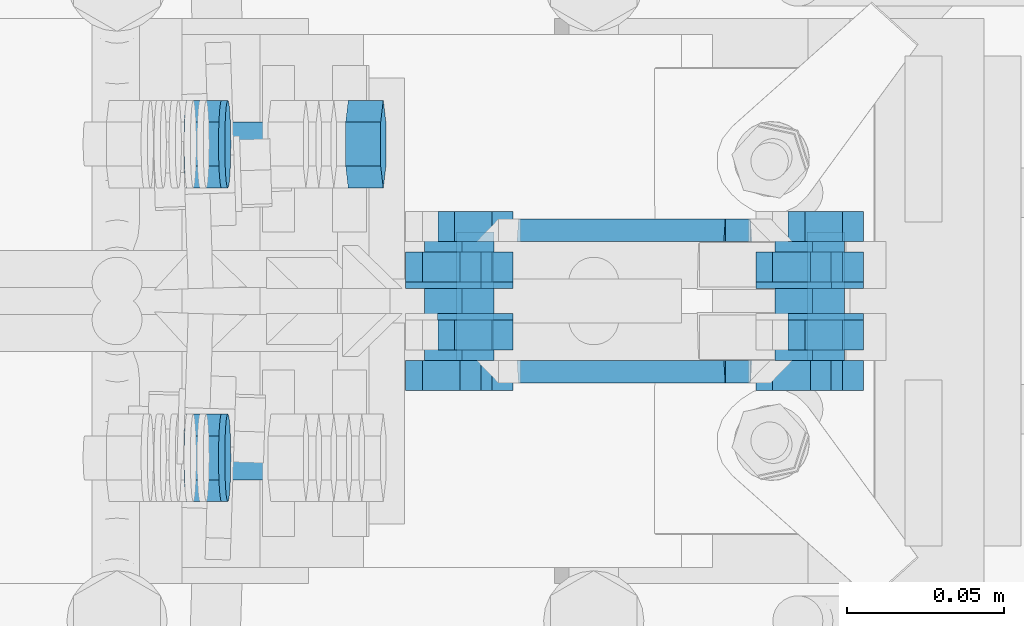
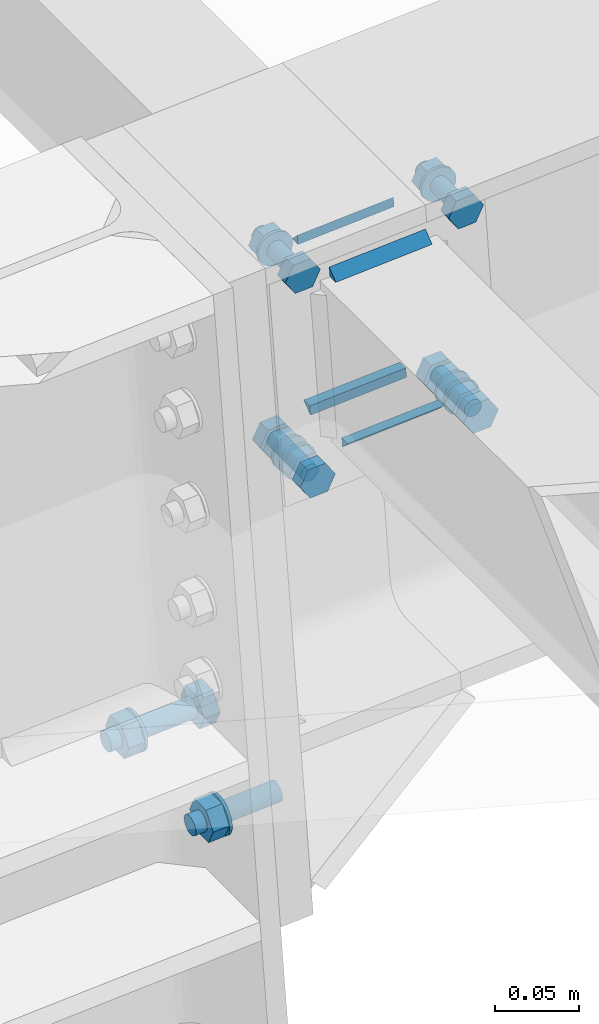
# One storey, part 37 of 72: 31 mechanical fasteners, 8 fasteners.
"""IFC4 building model written with IfcOpenShell, lengths in metres."""

from ifc_helpers import new_model, si_unit, frame, origin_with_axes, place, context, project, spatial, polyline, outline, extrude, type_object, element, save


model = new_model("IFC4")

# Units and contexts
model_context = context("Model", 3, precision=1e-05, world=origin_with_axes())
ifc_project = project(units=[si_unit("LENGTHUNIT", "METRE"), si_unit("AREAUNIT", "SQUARE_METRE"), si_unit("VOLUMEUNIT", "CUBIC_METRE"), si_unit("MASSUNIT", "GRAM", prefix="KILO"), si_unit("TIMEUNIT", "SECOND"), si_unit("PLANEANGLEUNIT", "RADIAN"), si_unit("SOLIDANGLEUNIT", "STERADIAN"), si_unit("THERMODYNAMICTEMPERATUREUNIT", "DEGREE_CELSIUS")], contexts=[model_context])

# Site, building, storey
placement_1 = place(None, origin_with_axes())
site = spatial("IfcSite", under=ifc_project, at=placement_1, Name="Italia", CompositionType="ELEMENT")
building = spatial("IfcBuilding", under=site, at=placement_1, Name="Pensilina", CompositionType="ELEMENT")
storey = spatial("IfcBuildingStorey", under=building, at=placement_1, Name="Storey 0", CompositionType="ELEMENT", Elevation=0.0)

# Mechanical fasteners
mechanical_fastener_type_1 = type_object("IfcMechanicalFastenerType", Name="Collegamento 0102_0202", PredefinedType="BOLT")
placement_2 = place(placement_1, origin_with_axes())
mechanical_fastener_1_placement = place(placement_2, origin_with_axes())
element("IfcMechanicalFastener", 1, at=mechanical_fastener_1_placement, inside=storey, type_object=mechanical_fastener_type_1, Name="Collegamento 0102_0202", NominalDiameter=0.014, context=model_context, shape_type="SweptSolid", body=[
    extrude(outline(polyline([(0.0, 0.0, 0.0), (-0.000238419, -0.0018115, 0.0), (-0.000937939, -0.00349998, 0.0), (-0.0020504, -0.00494957, 0.0), (-0.00349998, -0.00606203, 0.0), (-0.00518847, -0.00676131, 0.0), (-0.00699997, -0.00699997, 0.0), (-0.00881147, -0.00676131, 0.0), (-0.0105, -0.00606203, 0.0), (-0.0119495, -0.00494957, 0.0), (-0.013062, -0.00349998, 0.0), (-0.0137615, -0.0018115, 0.0), (-0.0139999, 0.0, 0.0), (-0.0137615, 0.00181174, 0.0), (-0.013062, 0.00350022, 0.0), (-0.0119495, 0.00494981, 0.0), (-0.0105, 0.00606227, 0.0), (-0.00881147, 0.00676155, 0.0), (-0.00699997, 0.00699997, 0.0), (-0.00518847, 0.00676155, 0.0), (-0.00349998, 0.00606227, 0.0), (-0.0020504, 0.00494981, 0.0), (-0.000937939, 0.00350022, 0.0), (-0.000238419, 0.00181174, 0.0), (0.0, 0.0, 0.0)])), frame((0.870405, 5.237, 3.41559), z_axis=(0.997648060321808, 0.0, 0.068544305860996), x_axis=(0.0, 1.0, 0.0)), (0.0, 0.0, 1.0), 0.0595),
])
mechanical_fastener_type_2 = type_object("IfcMechanicalFastenerType", Name="Collegamento 0102_0202", PredefinedType="BOLT")
mechanical_fastener_2_placement = place(placement_2, origin_with_axes())
element("IfcMechanicalFastener", 2, at=mechanical_fastener_2_placement, inside=storey, type_object=mechanical_fastener_type_2, Name="Collegamento 0102_0202", NominalDiameter=0.0139999, context=model_context, shape_type="SweptSolid", body=[
    extrude(outline(polyline([(0.0, 0.0, 0.0), (-0.0139999, 0.0, 0.0), (-0.0209999, 0.0121243, 0.0), (-0.0139999, 0.0242488, 0.0), (0.0, 0.0242488, 0.0), (0.00700045, 0.0121243, 0.0), (0.0, 0.0, 0.0)])), frame((0.879017, 5.237, 3.40403), z_axis=(0.997648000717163, 0.0, 0.068545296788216), x_axis=(0.0, 1.0, 0.0)), (0.0, 0.0, 1.0), 0.0112),
])
mechanical_fastener_type_3 = type_object("IfcMechanicalFastenerType", Name="Collegamento 0102_0202", PredefinedType="BOLT")
mechanical_fastener_3_placement = place(placement_2, origin_with_axes())
element("IfcMechanicalFastener", 3, at=mechanical_fastener_3_placement, inside=storey, type_object=mechanical_fastener_type_3, Name="Collegamento 0102_0202", NominalDiameter=0.028, context=model_context, shape_type="SweptSolid", body=[
    extrude(outline(polyline([(0.0, 0.0, 0.0), (-0.000476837, -0.00362349, 0.0), (-0.0018754, -0.00699997, 0.0), (-0.00410032, -0.00989962, 0.0), (-0.00699997, -0.0121245, 0.0), (-0.0103765, -0.0135231, 0.0), (-0.0139999, -0.0139999, 0.0), (-0.0176234, -0.0135231, 0.0), (-0.0209999, -0.0121245, 0.0), (-0.0238996, -0.00989962, 0.0), (-0.0261245, -0.00699997, 0.0), (-0.027523, -0.00362349, 0.0), (-0.0279999, 0.0, 0.0), (-0.027523, 0.00362349, 0.0), (-0.0261245, 0.00699997, 0.0), (-0.0238996, 0.00989962, 0.0), (-0.0209999, 0.0121243, 0.0), (-0.0176234, 0.0135229, 0.0), (-0.0139999, 0.0139999, 0.0), (-0.0103765, 0.0135229, 0.0), (-0.00699997, 0.0121243, 0.0), (-0.00410032, 0.00989962, 0.0), (-0.0018754, 0.00699997, 0.0), (-0.000476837, 0.00362349, 0.0), (0.0, 0.0, 0.0)])), frame((0.88936, 5.244, 3.41689), z_axis=(0.997648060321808, 0.0, 0.06854435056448), x_axis=(0.0, 1.0, 0.0)), (0.0, 0.0, 1.0), 0.00200003),
])
mechanical_fastener_type_4 = type_object("IfcMechanicalFastenerType", Name="Collegamento 0102_0202", PredefinedType="BOLT")
mechanical_fastener_4_placement = place(placement_2, origin_with_axes())
element("IfcMechanicalFastener", 4, at=mechanical_fastener_4_placement, inside=storey, type_object=mechanical_fastener_type_4, Name="Collegamento 0102_0202", NominalDiameter=0.0139999, context=model_context, shape_type="SweptSolid", body=[
    extrude(outline(polyline([(0.0, 0.0, 0.0), (-0.0139999, 0.0, 0.0), (-0.0210004, 0.0121245, 0.0), (-0.0139999, 0.0242486, 0.0), (0.0, 0.0242486, 0.0), (0.00699997, 0.0121245, 0.0), (0.0, 0.0, 0.0)])), frame((0.930596, 5.337, 3.40757), z_axis=(0.997648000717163, 0.0, 0.068545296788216), x_axis=(0.0, 1.0, 0.0)), (0.0, 0.0, 1.0), 0.0112),
])
mechanical_fastener_type_5 = type_object("IfcMechanicalFastenerType", Name="Collegamento 0102_0202", PredefinedType="BOLT")
mechanical_fastener_5_placement = place(placement_2, origin_with_axes())
element("IfcMechanicalFastener", 5, at=mechanical_fastener_5_placement, inside=storey, type_object=mechanical_fastener_type_5, Name="Collegamento 0102_0202", NominalDiameter=0.014, context=model_context, shape_type="SweptSolid", body=[
    extrude(outline(polyline([(0.0, 0.0, 0.0), (-0.000238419, -0.0018115, 0.0), (-0.000937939, -0.00349998, 0.0), (-0.0020504, -0.00494957, 0.0), (-0.00349998, -0.00606203, 0.0), (-0.00518847, -0.00676131, 0.0), (-0.00699997, -0.00699997, 0.0), (-0.00881147, -0.00676131, 0.0), (-0.0105, -0.00606203, 0.0), (-0.0119495, -0.00494957, 0.0), (-0.013062, -0.00349998, 0.0), (-0.0137615, -0.0018115, 0.0), (-0.0139999, 0.0, 0.0), (-0.0137615, 0.00181174, 0.0), (-0.013062, 0.00350022, 0.0), (-0.0119495, 0.00494981, 0.0), (-0.0105, 0.00606227, 0.0), (-0.00881147, 0.00676155, 0.0), (-0.00699997, 0.00699997, 0.0), (-0.00518847, 0.00676155, 0.0), (-0.00349998, 0.00606227, 0.0), (-0.0020504, 0.00494981, 0.0), (-0.000937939, 0.00350022, 0.0), (-0.000238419, 0.00181174, 0.0), (0.0, 0.0, 0.0)])), frame((0.870405, 5.337, 3.41559), z_axis=(0.997648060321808, 0.0, 0.068544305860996), x_axis=(0.0, 1.0, 0.0)), (0.0, 0.0, 1.0), 0.0595),
])
mechanical_fastener_type_6 = type_object("IfcMechanicalFastenerType", Name="Collegamento 0102_0202", PredefinedType="BOLT")
mechanical_fastener_6_placement = place(placement_2, origin_with_axes())
element("IfcMechanicalFastener", 6, at=mechanical_fastener_6_placement, inside=storey, type_object=mechanical_fastener_type_6, Name="Collegamento 0102_0202", NominalDiameter=0.0139999, context=model_context, shape_type="SweptSolid", body=[
    extrude(outline(polyline([(0.0, 0.0, 0.0), (-0.0139999, 0.0, 0.0), (-0.0210004, 0.0121243, 0.0), (-0.0139999, 0.0242488, 0.0), (0.0, 0.0242488, 0.0), (0.00699997, 0.0121243, 0.0), (0.0, 0.0, 0.0)])), frame((0.879017, 5.337, 3.40403), z_axis=(0.997648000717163, 0.0, 0.068545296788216), x_axis=(0.0, 1.0, 0.0)), (0.0, 0.0, 1.0), 0.0112),
])
mechanical_fastener_type_7 = type_object("IfcMechanicalFastenerType", Name="Collegamento 0102_0202", PredefinedType="BOLT")
mechanical_fastener_7_placement = place(placement_2, origin_with_axes())
element("IfcMechanicalFastener", 7, at=mechanical_fastener_7_placement, inside=storey, type_object=mechanical_fastener_type_7, Name="Collegamento 0102_0202", NominalDiameter=0.028, context=model_context, shape_type="SweptSolid", body=[
    extrude(outline(polyline([(0.0, 0.0, 0.0), (-0.000476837, -0.00362349, 0.0), (-0.0018754, -0.00699997, 0.0), (-0.00410032, -0.00989962, 0.0), (-0.00699997, -0.0121245, 0.0), (-0.0103765, -0.0135231, 0.0), (-0.0139999, -0.0139999, 0.0), (-0.0176234, -0.0135231, 0.0), (-0.0209999, -0.0121245, 0.0), (-0.0238996, -0.00989962, 0.0), (-0.0261245, -0.00699997, 0.0), (-0.027523, -0.00362349, 0.0), (-0.0279999, 0.0, 0.0), (-0.027523, 0.00362349, 0.0), (-0.0261245, 0.00699997, 0.0), (-0.0238996, 0.00989962, 0.0), (-0.0209999, 0.0121243, 0.0), (-0.0176234, 0.0135229, 0.0), (-0.0139999, 0.0139999, 0.0), (-0.0103765, 0.0135229, 0.0), (-0.00699997, 0.0121243, 0.0), (-0.00410032, 0.00989962, 0.0), (-0.0018754, 0.00699997, 0.0), (-0.000476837, 0.00362349, 0.0), (0.0, 0.0, 0.0)])), frame((0.88936, 5.344, 3.41689), z_axis=(0.997648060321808, 0.0, 0.06854435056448), x_axis=(0.0, 1.0, 0.0)), (0.0, 0.0, 1.0), 0.00200003),
])

# Fasteners
fastener_type_1 = type_object("IfcFastenerType", Name="Collegamento 0202_0201", PredefinedType="WELD")
fastener_1_placement = place(placement_2, origin_with_axes())
element("IfcFastener", 8, at=fastener_1_placement, inside=storey, type_object=fastener_type_1, Name="Collegamento 0202_0201", context=model_context, shape_type="SweptSolid", body=[
    extrude(outline(polyline([(0.0, 0.0, 0.0), (0.00717354, -0.00695801, 0.0), (0.0, -0.00695801, 0.0), (0.0, 0.0, 0.0)])), frame((1.04952, 5.26105, 3.76556), z_axis=(-0.997731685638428, 0.0, -0.067316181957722), x_axis=(0.0, -1.0, 0.0)), (0.0, 0.0, 1.0), 0.0661001),
])
fastener_type_2 = type_object("IfcFastenerType", Name="Collegamento 0202_0201", PredefinedType="WELD")
fastener_2_placement = place(placement_2, origin_with_axes())
element("IfcFastener", 9, at=fastener_2_placement, inside=storey, type_object=fastener_type_2, Name="Collegamento 0202_0201", context=model_context, shape_type="SweptSolid", body=[
    extrude(outline(polyline([(0.0, 0.0, 0.0), (-0.00717354, 0.00695801, 0.0), (0.0, 0.00695801, 0.0), (0.0, 0.0, 0.0)])), frame((0.992578, 5.26105, 3.6276), z_axis=(0.997731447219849, 0.0, 0.067319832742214), x_axis=(0.0, 1.0, 0.0)), (0.0, 0.0, 1.0), 0.0661),
])
fastener_type_3 = type_object("IfcFastenerType", Name="Collegamento 0202_0201", PredefinedType="WELD")
fastener_3_placement = place(placement_2, origin_with_axes())
element("IfcFastener", 10, at=fastener_3_placement, inside=storey, type_object=fastener_type_3, Name="Collegamento 0202_0201", context=model_context, shape_type="SweptSolid", body=[
    extrude(outline(polyline([(0.0, 0.0, 0.0), (0.00717354, -0.00695801, 0.0), (0.0, -0.00695801, 0.0), (0.0, 0.0, 0.0)])), frame((1.04952, 5.26105, 3.76556), z_axis=(-0.997731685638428, 0.0, -0.067316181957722), x_axis=(0.0, -1.0, 0.0)), (0.0, 0.0, 1.0), 0.0661001),
])
fastener_type_4 = type_object("IfcFastenerType", Name="Collegamento 0202_0201", PredefinedType="WELD")
fastener_4_placement = place(placement_2, origin_with_axes())
element("IfcFastener", 11, at=fastener_4_placement, inside=storey, type_object=fastener_type_4, Name="Collegamento 0202_0201", context=model_context, shape_type="SweptSolid", body=[
    extrude(outline(polyline([(0.0, 0.0, 0.0), (-0.00717354, 0.00695801, 0.0), (0.0, 0.00695801, 0.0), (0.0, 0.0, 0.0)])), frame((0.992578, 5.26105, 3.6276), z_axis=(0.997731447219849, 0.0, 0.067319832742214), x_axis=(0.0, 1.0, 0.0)), (0.0, 0.0, 1.0), 0.0661),
])

# Mechanical fasteners
mechanical_fastener_type_8 = type_object("IfcMechanicalFastenerType", Name="Collegamento 0202_0201", PredefinedType="BOLT")
mechanical_fastener_8_placement = place(placement_2, origin_with_axes())
element("IfcMechanicalFastener", 12, at=mechanical_fastener_8_placement, inside=storey, type_object=mechanical_fastener_type_8, Name="Collegamento 0202_0201", NominalDiameter=0.0119999, context=model_context, shape_type="SweptSolid", body=[
    extrude(outline(polyline([(0.0, 0.0, 0.0), (-0.0119728, -0.000807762, 0.0), (-0.0186588, 0.00915694, 0.0), (-0.0133719, 0.0199296, 0.0), (-0.00139916, 0.0207374, 0.0), (0.00528681, 0.0107727, 0.0), (0.0, 0.0, 0.0)])), frame((0.976979, 5.261, 3.60702), z_axis=(0.0, -1.0, 0.0), x_axis=(1.0, 0.0, 0.0)), (0.0, 0.0, 1.0), 0.00960016),
])
mechanical_fastener_type_9 = type_object("IfcMechanicalFastenerType", Name="Collegamento 0202_0201", PredefinedType="BOLT")
mechanical_fastener_9_placement = place(placement_2, origin_with_axes())
element("IfcMechanicalFastener", 13, at=mechanical_fastener_9_placement, inside=storey, type_object=mechanical_fastener_type_9, Name="Collegamento 0202_0201", NominalDiameter=0.012, context=model_context, shape_type="SweptSolid", body=[
    extrude(outline(polyline([(0.0, 0.0, 0.0), (-0.000204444, -0.00155282, 0.0), (-0.000803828, -0.00300002, 0.0), (-0.00175732, -0.00424266, 0.0), (-0.00299996, -0.00519609, 0.0), (-0.00444704, -0.00579548, 0.0), (-0.00599998, -0.00600004, 0.0), (-0.00755292, -0.00579548, 0.0), (-0.009, -0.00519609, 0.0), (-0.0102426, -0.00424266, 0.0), (-0.0111961, -0.00300002, 0.0), (-0.0117955, -0.00155282, 0.0), (-0.012, 0.0, 0.0), (-0.0117955, 0.00155282, 0.0), (-0.0111961, 0.00300002, 0.0), (-0.0102426, 0.00424266, 0.0), (-0.009, 0.00519609, 0.0), (-0.00755292, 0.00579548, 0.0), (-0.00599998, 0.00600004, 0.0), (-0.00444704, 0.00579548, 0.0), (-0.00299996, 0.00519609, 0.0), (-0.00175732, 0.00424266, 0.0), (-0.000803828, 0.00300002, 0.0), (-0.000204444, 0.00155282, 0.0), (0.0, 0.0, 0.0)])), frame((0.976293, 5.302, 3.61698), z_axis=(0.0, -1.0, 0.0), x_axis=(1.0, 0.0, 0.0)), (0.0, 0.0, 1.0), 0.0409999),
])
mechanical_fastener_type_10 = type_object("IfcMechanicalFastenerType", Name="Collegamento 0202_0201", PredefinedType="BOLT")
mechanical_fastener_10_placement = place(placement_2, origin_with_axes())
element("IfcMechanicalFastener", 14, at=mechanical_fastener_10_placement, inside=storey, type_object=mechanical_fastener_type_10, Name="Collegamento 0202_0201", NominalDiameter=0.0119999, context=model_context, shape_type="SweptSolid", body=[
    extrude(outline(polyline([(0.0, 0.0, 0.0), (-0.0119728, -0.000807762, 0.0), (-0.0186588, 0.00915694, 0.0), (-0.0133719, 0.0199296, 0.0), (-0.00139916, 0.0207374, 0.0), (0.00528681, 0.0107727, 0.0), (0.0, 0.0, 0.0)])), frame((0.976979, 5.2956, 3.60702), z_axis=(0.0, -1.0, 0.0), x_axis=(1.0, 0.0, 0.0)), (0.0, 0.0, 1.0), 0.00959969),
])
mechanical_fastener_type_11 = type_object("IfcMechanicalFastenerType", Name="Collegamento 0202_0201", PredefinedType="BOLT")
mechanical_fastener_11_placement = place(placement_2, origin_with_axes())
element("IfcMechanicalFastener", 15, at=mechanical_fastener_11_placement, inside=storey, type_object=mechanical_fastener_type_11, Name="Collegamento 0202_0201", NominalDiameter=0.024, context=model_context, shape_type="SweptSolid", body=[
    extrude(outline(polyline([(0.0, 0.0, 0.0), (-0.000408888, -0.00310588, 0.0), (-0.00160772, -0.00600004, 0.0), (-0.00351477, -0.00848532, 0.0), (-0.00600004, -0.0103922, 0.0), (-0.00889421, -0.0115912, 0.0), (-0.012, -0.0120001, 0.0), (-0.0151058, -0.0115912, 0.0), (-0.018, -0.0103922, 0.0), (-0.0204853, -0.00848532, 0.0), (-0.0223923, -0.00600004, 0.0), (-0.0235912, -0.00310588, 0.0), (-0.024, 0.0, 0.0), (-0.0235912, 0.00310588, 0.0), (-0.0223923, 0.00600004, 0.0), (-0.0204853, 0.00848532, 0.0), (-0.018, 0.0103922, 0.0), (-0.0151058, 0.0115912, 0.0), (-0.012, 0.0120001, 0.0), (-0.00889421, 0.0115912, 0.0), (-0.00600004, 0.0103922, 0.0), (-0.00351477, 0.00848532, 0.0), (-0.00160772, 0.00600004, 0.0), (-0.000408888, 0.00310588, 0.0), (0.0, 0.0, 0.0)])), frame((0.982293, 5.286, 3.61698), z_axis=(0.0, -1.0, 0.0), x_axis=(1.0, 0.0, 0.0)), (0.0, 0.0, 1.0), 0.00200033),
])
mechanical_fastener_type_12 = type_object("IfcMechanicalFastenerType", Name="Collegamento 0202_0201", PredefinedType="BOLT")
mechanical_fastener_12_placement = place(placement_2, origin_with_axes())
element("IfcMechanicalFastener", 16, at=mechanical_fastener_12_placement, inside=storey, type_object=mechanical_fastener_type_12, Name="Collegamento 0202_0201", NominalDiameter=0.0119999, context=model_context, shape_type="SweptSolid", body=[
    extrude(outline(polyline([(0.0, 0.0, 0.0), (-0.0119728, -0.000807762, 0.0), (-0.0186589, 0.00915694, 0.0), (-0.0133721, 0.0199296, 0.0), (-0.00139928, 0.0207374, 0.0), (0.00528669, 0.0107727, 0.0), (0.0, 0.0, 0.0)])), frame((1.08872, 5.261, 3.61456), z_axis=(0.0, -1.0, 0.0), x_axis=(1.0, 0.0, 0.0)), (0.0, 0.0, 1.0), 0.00960016),
])
mechanical_fastener_type_13 = type_object("IfcMechanicalFastenerType", Name="Collegamento 0202_0201", PredefinedType="BOLT")
mechanical_fastener_13_placement = place(placement_2, origin_with_axes())
element("IfcMechanicalFastener", 17, at=mechanical_fastener_13_placement, inside=storey, type_object=mechanical_fastener_type_13, Name="Collegamento 0202_0201", NominalDiameter=0.012, context=model_context, shape_type="SweptSolid", body=[
    extrude(outline(polyline([(0.0, 0.0, 0.0), (-0.000204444, -0.00155282, 0.0), (-0.000803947, -0.00300002, 0.0), (-0.00175738, -0.00424266, 0.0), (-0.00300002, -0.00519609, 0.0), (-0.0044471, -0.00579548, 0.0), (-0.00600004, -0.00600004, 0.0), (-0.00755298, -0.00579548, 0.0), (-0.00900006, -0.00519609, 0.0), (-0.0102427, -0.00424266, 0.0), (-0.0111961, -0.00300002, 0.0), (-0.0117956, -0.00155282, 0.0), (-0.0120001, 0.0, 0.0), (-0.0117956, 0.00155282, 0.0), (-0.0111961, 0.00300002, 0.0), (-0.0102427, 0.00424266, 0.0), (-0.00900006, 0.00519609, 0.0), (-0.00755298, 0.00579548, 0.0), (-0.00600004, 0.00600004, 0.0), (-0.0044471, 0.00579548, 0.0), (-0.00300002, 0.00519609, 0.0), (-0.00175738, 0.00424266, 0.0), (-0.000803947, 0.00300002, 0.0), (-0.000204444, 0.00155282, 0.0), (0.0, 0.0, 0.0)])), frame((1.08804, 5.302, 3.62452), z_axis=(0.0, -1.0, 0.0), x_axis=(1.0, 0.0, 0.0)), (0.0, 0.0, 1.0), 0.0409999),
])
mechanical_fastener_type_14 = type_object("IfcMechanicalFastenerType", Name="Collegamento 0202_0201", PredefinedType="BOLT")
mechanical_fastener_14_placement = place(placement_2, origin_with_axes())
element("IfcMechanicalFastener", 18, at=mechanical_fastener_14_placement, inside=storey, type_object=mechanical_fastener_type_14, Name="Collegamento 0202_0201", NominalDiameter=0.0119999, context=model_context, shape_type="SweptSolid", body=[
    extrude(outline(polyline([(0.0, 0.0, 0.0), (-0.0119728, -0.000807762, 0.0), (-0.0186589, 0.00915694, 0.0), (-0.0133721, 0.0199296, 0.0), (-0.00139928, 0.0207374, 0.0), (0.00528669, 0.0107727, 0.0), (0.0, 0.0, 0.0)])), frame((1.08872, 5.2956, 3.61456), z_axis=(0.0, -1.0, 0.0), x_axis=(1.0, 0.0, 0.0)), (0.0, 0.0, 1.0), 0.00959969),
])
mechanical_fastener_type_15 = type_object("IfcMechanicalFastenerType", Name="Collegamento 0202_0201", PredefinedType="BOLT")
mechanical_fastener_15_placement = place(placement_2, origin_with_axes())
element("IfcMechanicalFastener", 19, at=mechanical_fastener_15_placement, inside=storey, type_object=mechanical_fastener_type_15, Name="Collegamento 0202_0201", NominalDiameter=0.024, context=model_context, shape_type="SweptSolid", body=[
    extrude(outline(polyline([(0.0, 0.0, 0.0), (-0.000408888, -0.00310588, 0.0), (-0.00160766, -0.00600004, 0.0), (-0.00351465, -0.00848532, 0.0), (-0.00599992, -0.0103922, 0.0), (-0.00889409, -0.0115912, 0.0), (-0.012, -0.0120001, 0.0), (-0.0151058, -0.0115912, 0.0), (-0.018, -0.0103922, 0.0), (-0.0204853, -0.00848532, 0.0), (-0.0223923, -0.00600004, 0.0), (-0.023591, -0.00310588, 0.0), (-0.0239999, 0.0, 0.0), (-0.023591, 0.00310588, 0.0), (-0.0223923, 0.00600004, 0.0), (-0.0204853, 0.00848532, 0.0), (-0.018, 0.0103922, 0.0), (-0.0151058, 0.0115912, 0.0), (-0.012, 0.0120001, 0.0), (-0.00889409, 0.0115912, 0.0), (-0.00599992, 0.0103922, 0.0), (-0.00351465, 0.00848532, 0.0), (-0.00160766, 0.00600004, 0.0), (-0.000408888, 0.00310588, 0.0), (0.0, 0.0, 0.0)])), frame((1.09404, 5.286, 3.62452), z_axis=(0.0, -1.0, 0.0), x_axis=(1.0, 0.0, 0.0)), (0.0, 0.0, 1.0), 0.00200033),
])
mechanical_fastener_type_16 = type_object("IfcMechanicalFastenerType", Name="Collegamento 0202_0201", PredefinedType="BOLT")
mechanical_fastener_16_placement = place(placement_2, origin_with_axes())
element("IfcMechanicalFastener", 20, at=mechanical_fastener_16_placement, inside=storey, type_object=mechanical_fastener_type_16, Name="Collegamento 0202_0201", NominalDiameter=0.0119999, context=model_context, shape_type="SweptSolid", body=[
    extrude(outline(polyline([(0.0, 0.0, 0.0), (-0.0119728, -0.000807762, 0.0), (-0.0186588, 0.00915694, 0.0), (-0.0133719, 0.0199296, 0.0), (-0.00139916, 0.0207374, 0.0), (0.00528681, 0.0107727, 0.0), (0.0, 0.0, 0.0)])), frame((0.966746, 5.261, 3.75867), z_axis=(0.0, -1.0, 0.0), x_axis=(1.0, 0.0, 0.0)), (0.0, 0.0, 1.0), 0.00960016),
])
mechanical_fastener_type_17 = type_object("IfcMechanicalFastenerType", Name="Collegamento 0202_0201", PredefinedType="BOLT")
mechanical_fastener_17_placement = place(placement_2, origin_with_axes())
element("IfcMechanicalFastener", 21, at=mechanical_fastener_17_placement, inside=storey, type_object=mechanical_fastener_type_17, Name="Collegamento 0202_0201", NominalDiameter=0.012, context=model_context, shape_type="SweptSolid", body=[
    extrude(outline(polyline([(0.0, 0.0, 0.0), (-0.000204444, -0.00155282, 0.0), (-0.000803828, -0.00300002, 0.0), (-0.00175732, -0.00424266, 0.0), (-0.00299996, -0.00519609, 0.0), (-0.00444704, -0.00579548, 0.0), (-0.00599998, -0.00600004, 0.0), (-0.00755292, -0.00579548, 0.0), (-0.009, -0.00519609, 0.0), (-0.0102426, -0.00424266, 0.0), (-0.0111961, -0.00300002, 0.0), (-0.0117955, -0.00155282, 0.0), (-0.012, 0.0, 0.0), (-0.0117955, 0.00155282, 0.0), (-0.0111961, 0.00300002, 0.0), (-0.0102426, 0.00424266, 0.0), (-0.009, 0.00519609, 0.0), (-0.00755292, 0.00579548, 0.0), (-0.00599998, 0.00600004, 0.0), (-0.00444704, 0.00579548, 0.0), (-0.00299996, 0.00519609, 0.0), (-0.00175732, 0.00424266, 0.0), (-0.000803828, 0.00300002, 0.0), (-0.000204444, 0.00155282, 0.0), (0.0, 0.0, 0.0)])), frame((0.96606, 5.302, 3.76864), z_axis=(0.0, -1.0, 0.0), x_axis=(1.0, 0.0, 0.0)), (0.0, 0.0, 1.0), 0.0409999),
])
mechanical_fastener_type_18 = type_object("IfcMechanicalFastenerType", Name="Collegamento 0202_0201", PredefinedType="BOLT")
mechanical_fastener_18_placement = place(placement_2, origin_with_axes())
element("IfcMechanicalFastener", 22, at=mechanical_fastener_18_placement, inside=storey, type_object=mechanical_fastener_type_18, Name="Collegamento 0202_0201", NominalDiameter=0.0119999, context=model_context, shape_type="SweptSolid", body=[
    extrude(outline(polyline([(0.0, 0.0, 0.0), (-0.0119728, -0.000807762, 0.0), (-0.0186588, 0.00915694, 0.0), (-0.0133719, 0.0199296, 0.0), (-0.00139916, 0.0207374, 0.0), (0.00528681, 0.0107727, 0.0), (0.0, 0.0, 0.0)])), frame((0.966746, 5.2956, 3.75867), z_axis=(0.0, -1.0, 0.0), x_axis=(1.0, 0.0, 0.0)), (0.0, 0.0, 1.0), 0.00959969),
])
mechanical_fastener_type_19 = type_object("IfcMechanicalFastenerType", Name="Collegamento 0202_0201", PredefinedType="BOLT")
mechanical_fastener_19_placement = place(placement_2, origin_with_axes())
element("IfcMechanicalFastener", 23, at=mechanical_fastener_19_placement, inside=storey, type_object=mechanical_fastener_type_19, Name="Collegamento 0202_0201", NominalDiameter=0.024, context=model_context, shape_type="SweptSolid", body=[
    extrude(outline(polyline([(0.0, 0.0, 0.0), (-0.000408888, -0.00310588, 0.0), (-0.00160772, -0.00600004, 0.0), (-0.00351477, -0.00848532, 0.0), (-0.00600004, -0.0103922, 0.0), (-0.00889421, -0.0115912, 0.0), (-0.012, -0.0120001, 0.0), (-0.0151058, -0.0115912, 0.0), (-0.018, -0.0103922, 0.0), (-0.0204853, -0.00848532, 0.0), (-0.0223923, -0.00600004, 0.0), (-0.0235912, -0.00310588, 0.0), (-0.024, 0.0, 0.0), (-0.0235912, 0.00310588, 0.0), (-0.0223923, 0.00600004, 0.0), (-0.0204853, 0.00848532, 0.0), (-0.018, 0.0103922, 0.0), (-0.0151058, 0.0115912, 0.0), (-0.012, 0.0120001, 0.0), (-0.00889421, 0.0115912, 0.0), (-0.00600004, 0.0103922, 0.0), (-0.00351477, 0.00848532, 0.0), (-0.00160772, 0.00600004, 0.0), (-0.000408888, 0.00310588, 0.0), (0.0, 0.0, 0.0)])), frame((0.97206, 5.286, 3.76864), z_axis=(0.0, -1.0, 0.0), x_axis=(1.0, 0.0, 0.0)), (0.0, 0.0, 1.0), 0.00200033),
])
mechanical_fastener_type_20 = type_object("IfcMechanicalFastenerType", Name="Collegamento 0202_0201", PredefinedType="BOLT")
mechanical_fastener_20_placement = place(placement_2, origin_with_axes())
element("IfcMechanicalFastener", 24, at=mechanical_fastener_20_placement, inside=storey, type_object=mechanical_fastener_type_20, Name="Collegamento 0202_0201", NominalDiameter=0.0119999, context=model_context, shape_type="SweptSolid", body=[
    extrude(outline(polyline([(0.0, 0.0, 0.0), (-0.0119728, -0.000807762, 0.0), (-0.0186589, 0.00915694, 0.0), (-0.0133721, 0.0199296, 0.0), (-0.00139928, 0.0207374, 0.0), (0.00528669, 0.0107727, 0.0), (0.0, 0.0, 0.0)])), frame((1.07849, 5.261, 3.76621), z_axis=(0.0, -1.0, 0.0), x_axis=(1.0, 0.0, 0.0)), (0.0, 0.0, 1.0), 0.00960016),
])
mechanical_fastener_type_21 = type_object("IfcMechanicalFastenerType", Name="Collegamento 0202_0201", PredefinedType="BOLT")
mechanical_fastener_21_placement = place(placement_2, origin_with_axes())
element("IfcMechanicalFastener", 25, at=mechanical_fastener_21_placement, inside=storey, type_object=mechanical_fastener_type_21, Name="Collegamento 0202_0201", NominalDiameter=0.012, context=model_context, shape_type="SweptSolid", body=[
    extrude(outline(polyline([(0.0, 0.0, 0.0), (-0.000204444, -0.00155282, 0.0), (-0.000803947, -0.00300002, 0.0), (-0.00175738, -0.00424266, 0.0), (-0.00300002, -0.00519609, 0.0), (-0.0044471, -0.00579548, 0.0), (-0.00600004, -0.00600004, 0.0), (-0.00755298, -0.00579548, 0.0), (-0.00900006, -0.00519609, 0.0), (-0.0102427, -0.00424266, 0.0), (-0.0111961, -0.00300002, 0.0), (-0.0117956, -0.00155282, 0.0), (-0.0120001, 0.0, 0.0), (-0.0117956, 0.00155282, 0.0), (-0.0111961, 0.00300002, 0.0), (-0.0102427, 0.00424266, 0.0), (-0.00900006, 0.00519609, 0.0), (-0.00755298, 0.00579548, 0.0), (-0.00600004, 0.00600004, 0.0), (-0.0044471, 0.00579548, 0.0), (-0.00300002, 0.00519609, 0.0), (-0.00175738, 0.00424266, 0.0), (-0.000803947, 0.00300002, 0.0), (-0.000204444, 0.00155282, 0.0), (0.0, 0.0, 0.0)])), frame((1.07781, 5.302, 3.77618), z_axis=(0.0, -1.0, 0.0), x_axis=(1.0, 0.0, 0.0)), (0.0, 0.0, 1.0), 0.0409999),
])
mechanical_fastener_type_22 = type_object("IfcMechanicalFastenerType", Name="Collegamento 0202_0201", PredefinedType="BOLT")
mechanical_fastener_22_placement = place(placement_2, origin_with_axes())
element("IfcMechanicalFastener", 26, at=mechanical_fastener_22_placement, inside=storey, type_object=mechanical_fastener_type_22, Name="Collegamento 0202_0201", NominalDiameter=0.0119999, context=model_context, shape_type="SweptSolid", body=[
    extrude(outline(polyline([(0.0, 0.0, 0.0), (-0.0119728, -0.000807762, 0.0), (-0.0186589, 0.00915694, 0.0), (-0.0133721, 0.0199296, 0.0), (-0.00139928, 0.0207374, 0.0), (0.00528669, 0.0107727, 0.0), (0.0, 0.0, 0.0)])), frame((1.07849, 5.2956, 3.76621), z_axis=(0.0, -1.0, 0.0), x_axis=(1.0, 0.0, 0.0)), (0.0, 0.0, 1.0), 0.00959969),
])
mechanical_fastener_type_23 = type_object("IfcMechanicalFastenerType", Name="Collegamento 0202_0201", PredefinedType="BOLT")
mechanical_fastener_23_placement = place(placement_2, origin_with_axes())
element("IfcMechanicalFastener", 27, at=mechanical_fastener_23_placement, inside=storey, type_object=mechanical_fastener_type_23, Name="Collegamento 0202_0201", NominalDiameter=0.024, context=model_context, shape_type="SweptSolid", body=[
    extrude(outline(polyline([(0.0, 0.0, 0.0), (-0.000408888, -0.00310588, 0.0), (-0.00160766, -0.00600004, 0.0), (-0.00351465, -0.00848532, 0.0), (-0.00599992, -0.0103922, 0.0), (-0.00889409, -0.0115912, 0.0), (-0.012, -0.0120001, 0.0), (-0.0151058, -0.0115912, 0.0), (-0.018, -0.0103922, 0.0), (-0.0204853, -0.00848532, 0.0), (-0.0223923, -0.00600004, 0.0), (-0.023591, -0.00310588, 0.0), (-0.0239999, 0.0, 0.0), (-0.023591, 0.00310588, 0.0), (-0.0223923, 0.00600004, 0.0), (-0.0204853, 0.00848532, 0.0), (-0.018, 0.0103922, 0.0), (-0.0151058, 0.0115912, 0.0), (-0.012, 0.0120001, 0.0), (-0.00889409, 0.0115912, 0.0), (-0.00599992, 0.0103922, 0.0), (-0.00351465, 0.00848532, 0.0), (-0.00160766, 0.00600004, 0.0), (-0.000408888, 0.00310588, 0.0), (0.0, 0.0, 0.0)])), frame((1.08381, 5.286, 3.77618), z_axis=(0.0, -1.0, 0.0), x_axis=(1.0, 0.0, 0.0)), (0.0, 0.0, 1.0), 0.00200033),
])

# Fasteners
fastener_type_5 = type_object("IfcFastenerType", Name="Collegamento 0202_0203", PredefinedType="WELD")
fastener_5_placement = place(placement_2, origin_with_axes())
element("IfcFastener", 28, at=fastener_5_placement, inside=storey, type_object=fastener_type_5, Name="Collegamento 0202_0203", context=model_context, shape_type="SweptSolid", body=[
    extrude(outline(polyline([(0.0, 0.0, 0.0), (0.00717354, -0.00695801, 0.0), (0.0, -0.00695801, 0.0), (0.0, 0.0, 0.0)])), frame((0.98357, 5.29895, 3.76111), z_axis=(0.997731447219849, 0.0, 0.06731989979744), x_axis=(0.0, 1.0, 0.0)), (0.0, 0.0, 1.0), 0.0661),
])
fastener_type_6 = type_object("IfcFastenerType", Name="Collegamento 0202_0203", PredefinedType="WELD")
fastener_6_placement = place(placement_2, origin_with_axes())
element("IfcFastener", 29, at=fastener_6_placement, inside=storey, type_object=fastener_type_6, Name="Collegamento 0202_0203", context=model_context, shape_type="SweptSolid", body=[
    extrude(outline(polyline([(0.0, 0.0, 0.0), (-0.00717354, 0.00695801, 0.0), (0.0, 0.00695801, 0.0), (0.0, 0.0, 0.0)])), frame((1.05853, 5.29895, 3.63205), z_axis=(-0.997731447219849, 0.0, -0.067319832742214), x_axis=(0.0, -1.0, 0.0)), (0.0, 0.0, 1.0), 0.0661),
])
fastener_type_7 = type_object("IfcFastenerType", Name="Collegamento 0202_0203", PredefinedType="WELD")
fastener_7_placement = place(placement_2, origin_with_axes())
element("IfcFastener", 30, at=fastener_7_placement, inside=storey, type_object=fastener_type_7, Name="Collegamento 0202_0203", context=model_context, shape_type="SweptSolid", body=[
    extrude(outline(polyline([(0.0, 0.0, 0.0), (0.00717354, -0.00695801, 0.0), (0.0, -0.00695801, 0.0), (0.0, 0.0, 0.0)])), frame((0.98357, 5.29895, 3.76111), z_axis=(0.997731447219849, 0.0, 0.06731989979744), x_axis=(0.0, 1.0, 0.0)), (0.0, 0.0, 1.0), 0.0661),
])
fastener_type_8 = type_object("IfcFastenerType", Name="Collegamento 0202_0203", PredefinedType="WELD")
fastener_8_placement = place(placement_2, origin_with_axes())
element("IfcFastener", 31, at=fastener_8_placement, inside=storey, type_object=fastener_type_8, Name="Collegamento 0202_0203", context=model_context, shape_type="SweptSolid", body=[
    extrude(outline(polyline([(0.0, 0.0, 0.0), (-0.00717354, 0.00695801, 0.0), (0.0, 0.00695801, 0.0), (0.0, 0.0, 0.0)])), frame((1.05853, 5.29895, 3.63205), z_axis=(-0.997731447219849, 0.0, -0.067319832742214), x_axis=(0.0, -1.0, 0.0)), (0.0, 0.0, 1.0), 0.0661),
])

# Mechanical fasteners
mechanical_fastener_type_24 = type_object("IfcMechanicalFastenerType", Name="Collegamento 0202_0203", PredefinedType="BOLT")
mechanical_fastener_24_placement = place(placement_2, origin_with_axes())
element("IfcMechanicalFastener", 32, at=mechanical_fastener_24_placement, inside=storey, type_object=mechanical_fastener_type_24, Name="Collegamento 0202_0203", NominalDiameter=0.0119999, context=model_context, shape_type="SweptSolid", body=[
    extrude(outline(polyline([(0.0, 0.0, 0.0), (-0.0119728, 0.000807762, 0.0), (-0.0172595, 0.0115805, 0.0), (-0.0105735, 0.0215452, 0.0), (0.00139928, 0.0207374, 0.0), (0.00668609, 0.0099647, 0.0), (0.0, 0.0, 0.0)])), frame((1.07675, 5.299, 3.61375), z_axis=(0.0, 1.0, 0.0), x_axis=(-1.0, 0.0, 0.0)), (0.0, 0.0, 1.0), 0.00960016),
])
mechanical_fastener_type_25 = type_object("IfcMechanicalFastenerType", Name="Collegamento 0202_0203", PredefinedType="BOLT")
mechanical_fastener_25_placement = place(placement_2, origin_with_axes())
element("IfcMechanicalFastener", 33, at=mechanical_fastener_25_placement, inside=storey, type_object=mechanical_fastener_type_25, Name="Collegamento 0202_0203", NominalDiameter=0.012, context=model_context, shape_type="SweptSolid", body=[
    extrude(outline(polyline([(0.0, 0.0, 0.0), (-0.000204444, -0.00155282, 0.0), (-0.000803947, -0.00300002, 0.0), (-0.00175738, -0.00424266, 0.0), (-0.00300002, -0.00519609, 0.0), (-0.0044471, -0.00579548, 0.0), (-0.00600004, -0.00600004, 0.0), (-0.00755298, -0.00579548, 0.0), (-0.00900006, -0.00519609, 0.0), (-0.0102427, -0.00424266, 0.0), (-0.0111961, -0.00300002, 0.0), (-0.0117956, -0.00155282, 0.0), (-0.0120001, 0.0, 0.0), (-0.0117956, 0.00155282, 0.0), (-0.0111961, 0.00300002, 0.0), (-0.0102427, 0.00424266, 0.0), (-0.00900006, 0.00519609, 0.0), (-0.00755298, 0.00579548, 0.0), (-0.00600004, 0.00600004, 0.0), (-0.0044471, 0.00579548, 0.0), (-0.00300002, 0.00519609, 0.0), (-0.00175738, 0.00424266, 0.0), (-0.000803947, 0.00300002, 0.0), (-0.000204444, 0.00155282, 0.0), (0.0, 0.0, 0.0)])), frame((1.07604, 5.258, 3.62452), z_axis=(0.0, 1.0, 0.0), x_axis=(-1.0, 0.0, 0.0)), (0.0, 0.0, 1.0), 0.0409999),
])
mechanical_fastener_type_26 = type_object("IfcMechanicalFastenerType", Name="Collegamento 0202_0203", PredefinedType="BOLT")
mechanical_fastener_26_placement = place(placement_2, origin_with_axes())
element("IfcMechanicalFastener", 34, at=mechanical_fastener_26_placement, inside=storey, type_object=mechanical_fastener_type_26, Name="Collegamento 0202_0203", NominalDiameter=0.0119999, context=model_context, shape_type="SweptSolid", body=[
    extrude(outline(polyline([(0.0, 0.0, 0.0), (-0.0119728, 0.000807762, 0.0), (-0.0172595, 0.0115805, 0.0), (-0.0105735, 0.0215452, 0.0), (0.00139928, 0.0207374, 0.0), (0.00668609, 0.0099647, 0.0), (0.0, 0.0, 0.0)])), frame((1.07675, 5.2644, 3.61375), z_axis=(0.0, 1.0, 0.0), x_axis=(-1.0, 0.0, 0.0)), (0.0, 0.0, 1.0), 0.00959969),
])
mechanical_fastener_type_27 = type_object("IfcMechanicalFastenerType", Name="Collegamento 0202_0203", PredefinedType="BOLT")
mechanical_fastener_27_placement = place(placement_2, origin_with_axes())
element("IfcMechanicalFastener", 35, at=mechanical_fastener_27_placement, inside=storey, type_object=mechanical_fastener_type_27, Name="Collegamento 0202_0203", NominalDiameter=0.024, context=model_context, shape_type="SweptSolid", body=[
    extrude(outline(polyline([(0.0, 0.0, 0.0), (-0.000408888, -0.00310588, 0.0), (-0.00160766, -0.00600004, 0.0), (-0.00351465, -0.00848532, 0.0), (-0.00599992, -0.0103922, 0.0), (-0.00889409, -0.0115912, 0.0), (-0.012, -0.0120001, 0.0), (-0.0151058, -0.0115912, 0.0), (-0.018, -0.0103922, 0.0), (-0.0204853, -0.00848532, 0.0), (-0.0223923, -0.00600004, 0.0), (-0.023591, -0.00310588, 0.0), (-0.0239999, 0.0, 0.0), (-0.023591, 0.00310588, 0.0), (-0.0223923, 0.00600004, 0.0), (-0.0204853, 0.00848532, 0.0), (-0.018, 0.0103922, 0.0), (-0.0151058, 0.0115912, 0.0), (-0.012, 0.0120001, 0.0), (-0.00889409, 0.0115912, 0.0), (-0.00599992, 0.0103922, 0.0), (-0.00351465, 0.00848532, 0.0), (-0.00160766, 0.00600004, 0.0), (-0.000408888, 0.00310588, 0.0), (0.0, 0.0, 0.0)])), frame((1.07004, 5.274, 3.62452), z_axis=(0.0, 1.0, 0.0), x_axis=(-1.0, 0.0, 0.0)), (0.0, 0.0, 1.0), 0.00200033),
])
mechanical_fastener_type_28 = type_object("IfcMechanicalFastenerType", Name="Collegamento 0202_0203", PredefinedType="BOLT")
mechanical_fastener_28_placement = place(placement_2, origin_with_axes())
element("IfcMechanicalFastener", 36, at=mechanical_fastener_28_placement, inside=storey, type_object=mechanical_fastener_type_28, Name="Collegamento 0202_0203", NominalDiameter=0.0119999, context=model_context, shape_type="SweptSolid", body=[
    extrude(outline(polyline([(0.0, 0.0, 0.0), (-0.0119728, 0.000807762, 0.0), (-0.0172596, 0.0115805, 0.0), (-0.0105736, 0.0215452, 0.0), (0.00139916, 0.0207374, 0.0), (0.00668597, 0.0099647, 0.0), (0.0, 0.0, 0.0)])), frame((0.965006, 5.299, 3.60621), z_axis=(0.0, 1.0, 0.0), x_axis=(-1.0, 0.0, 0.0)), (0.0, 0.0, 1.0), 0.00960016),
])
mechanical_fastener_type_29 = type_object("IfcMechanicalFastenerType", Name="Collegamento 0202_0203", PredefinedType="BOLT")
mechanical_fastener_29_placement = place(placement_2, origin_with_axes())
element("IfcMechanicalFastener", 37, at=mechanical_fastener_29_placement, inside=storey, type_object=mechanical_fastener_type_29, Name="Collegamento 0202_0203", NominalDiameter=0.012, context=model_context, shape_type="SweptSolid", body=[
    extrude(outline(polyline([(0.0, 0.0, 0.0), (-0.000204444, -0.00155282, 0.0), (-0.000803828, -0.00300002, 0.0), (-0.00175732, -0.00424266, 0.0), (-0.00299996, -0.00519609, 0.0), (-0.00444704, -0.00579548, 0.0), (-0.00599998, -0.00600004, 0.0), (-0.00755292, -0.00579548, 0.0), (-0.009, -0.00519609, 0.0), (-0.0102426, -0.00424266, 0.0), (-0.0111961, -0.00300002, 0.0), (-0.0117955, -0.00155282, 0.0), (-0.012, 0.0, 0.0), (-0.0117955, 0.00155282, 0.0), (-0.0111961, 0.00300002, 0.0), (-0.0102426, 0.00424266, 0.0), (-0.009, 0.00519609, 0.0), (-0.00755292, 0.00579548, 0.0), (-0.00599998, 0.00600004, 0.0), (-0.00444704, 0.00579548, 0.0), (-0.00299996, 0.00519609, 0.0), (-0.00175732, 0.00424266, 0.0), (-0.000803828, 0.00300002, 0.0), (-0.000204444, 0.00155282, 0.0), (0.0, 0.0, 0.0)])), frame((0.964293, 5.258, 3.61698), z_axis=(0.0, 1.0, 0.0), x_axis=(-1.0, 0.0, 0.0)), (0.0, 0.0, 1.0), 0.0409999),
])
mechanical_fastener_type_30 = type_object("IfcMechanicalFastenerType", Name="Collegamento 0202_0203", PredefinedType="BOLT")
mechanical_fastener_30_placement = place(placement_2, origin_with_axes())
element("IfcMechanicalFastener", 38, at=mechanical_fastener_30_placement, inside=storey, type_object=mechanical_fastener_type_30, Name="Collegamento 0202_0203", NominalDiameter=0.0119999, context=model_context, shape_type="SweptSolid", body=[
    extrude(outline(polyline([(0.0, 0.0, 0.0), (-0.0119728, 0.000807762, 0.0), (-0.0172596, 0.0115805, 0.0), (-0.0105736, 0.0215452, 0.0), (0.00139916, 0.0207374, 0.0), (0.00668597, 0.0099647, 0.0), (0.0, 0.0, 0.0)])), frame((0.965006, 5.2644, 3.60621), z_axis=(0.0, 1.0, 0.0), x_axis=(-1.0, 0.0, 0.0)), (0.0, 0.0, 1.0), 0.00959969),
])
mechanical_fastener_type_31 = type_object("IfcMechanicalFastenerType", Name="Collegamento 0202_0203", PredefinedType="BOLT")
mechanical_fastener_31_placement = place(placement_2, origin_with_axes())
element("IfcMechanicalFastener", 39, at=mechanical_fastener_31_placement, inside=storey, type_object=mechanical_fastener_type_31, Name="Collegamento 0202_0203", NominalDiameter=0.024, context=model_context, shape_type="SweptSolid", body=[
    extrude(outline(polyline([(0.0, 0.0, 0.0), (-0.000408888, -0.00310588, 0.0), (-0.00160772, -0.00600004, 0.0), (-0.00351477, -0.00848532, 0.0), (-0.00600004, -0.0103922, 0.0), (-0.00889421, -0.0115912, 0.0), (-0.012, -0.0120001, 0.0), (-0.0151058, -0.0115912, 0.0), (-0.018, -0.0103922, 0.0), (-0.0204853, -0.00848532, 0.0), (-0.0223923, -0.00600004, 0.0), (-0.0235912, -0.00310588, 0.0), (-0.024, 0.0, 0.0), (-0.0235912, 0.00310588, 0.0), (-0.0223923, 0.00600004, 0.0), (-0.0204853, 0.00848532, 0.0), (-0.018, 0.0103922, 0.0), (-0.0151058, 0.0115912, 0.0), (-0.012, 0.0120001, 0.0), (-0.00889421, 0.0115912, 0.0), (-0.00600004, 0.0103922, 0.0), (-0.00351477, 0.00848532, 0.0), (-0.00160772, 0.00600004, 0.0), (-0.000408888, 0.00310588, 0.0), (0.0, 0.0, 0.0)])), frame((0.958293, 5.274, 3.61698), z_axis=(0.0, 1.0, 0.0), x_axis=(-1.0, 0.0, 0.0)), (0.0, 0.0, 1.0), 0.00200033),
])

save(model, "model.ifc")
